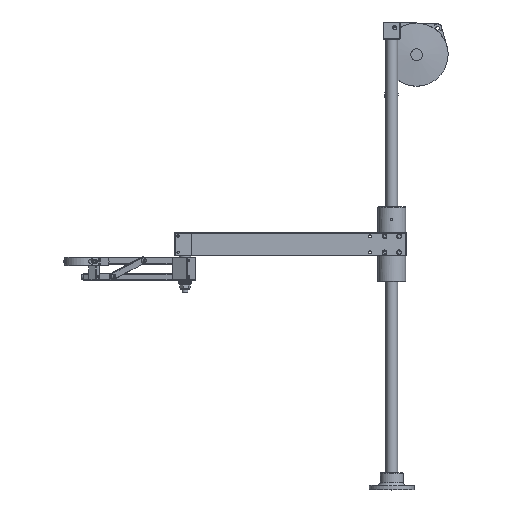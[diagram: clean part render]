
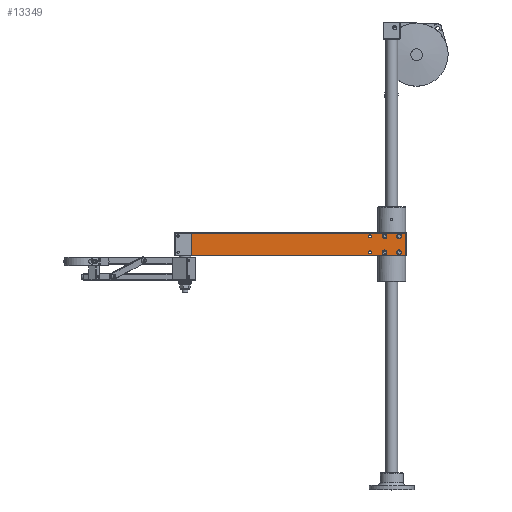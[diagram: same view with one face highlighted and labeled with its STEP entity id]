
A CAD part, top view. The second image highlights one B-rep face of the part: STEP entity #13349.
In plain terms, the highlighted planar face has unit normal (0, 0, 1) as drawn and (0, 0, -1) by its records, which use the part's own axes.
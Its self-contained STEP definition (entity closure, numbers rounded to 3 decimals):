
#1863=LINE('',#33014,#2753);
#1864=LINE('',#33017,#2754);
#1865=LINE('',#33019,#2755);
#1866=LINE('',#33021,#2756);
#2753=VECTOR('',#17847,1000.);
#2754=VECTOR('',#17848,1000.);
#2755=VECTOR('',#17849,1000.);
#2756=VECTOR('',#17850,1000.);
#5317=ORIENTED_EDGE('',*,*,#7624,.T.);
#5318=ORIENTED_EDGE('',*,*,#7625,.T.);
#5319=ORIENTED_EDGE('',*,*,#7626,.T.);
#5320=ORIENTED_EDGE('',*,*,#7627,.T.);
#5321=ORIENTED_EDGE('',*,*,#7619,.T.);
#5322=ORIENTED_EDGE('',*,*,#7620,.T.);
#5323=ORIENTED_EDGE('',*,*,#7621,.T.);
#5324=ORIENTED_EDGE('',*,*,#7622,.T.);
#5325=ORIENTED_EDGE('',*,*,#7623,.T.);
#5326=ORIENTED_EDGE('',*,*,#7628,.T.);
#5327=ORIENTED_EDGE('',*,*,#7629,.F.);
#5328=ORIENTED_EDGE('',*,*,#7630,.F.);
#7619=EDGE_CURVE('',#8922,#8922,#9671,.T.);
#7620=EDGE_CURVE('',#8923,#8923,#9672,.T.);
#7621=EDGE_CURVE('',#8924,#8924,#9673,.T.);
#7622=EDGE_CURVE('',#8925,#8925,#9674,.T.);
#7623=EDGE_CURVE('',#8926,#8926,#9675,.T.);
#7624=EDGE_CURVE('',#8927,#8928,#1863,.T.);
#7625=EDGE_CURVE('',#8928,#8929,#1864,.T.);
#7626=EDGE_CURVE('',#8929,#8930,#1865,.T.);
#7627=EDGE_CURVE('',#8930,#8927,#1866,.T.);
#7628=EDGE_CURVE('',#8931,#8931,#9676,.T.);
#7629=EDGE_CURVE('',#8932,#8932,#9677,.F.);
#7630=EDGE_CURVE('',#8933,#8933,#9678,.F.);
#8922=VERTEX_POINT('',#33000);
#8923=VERTEX_POINT('',#33003);
#8924=VERTEX_POINT('',#33006);
#8925=VERTEX_POINT('',#33009);
#8926=VERTEX_POINT('',#33012);
#8927=VERTEX_POINT('',#33015);
#8928=VERTEX_POINT('',#33016);
#8929=VERTEX_POINT('',#33018);
#8930=VERTEX_POINT('',#33020);
#8931=VERTEX_POINT('',#33023);
#8932=VERTEX_POINT('',#33025);
#8933=VERTEX_POINT('',#33027);
#9671=CIRCLE('',#14751,2.5);
#9672=CIRCLE('',#14753,2.5);
#9673=CIRCLE('',#14755,2.5);
#9674=CIRCLE('',#14757,2.5);
#9675=CIRCLE('',#14759,2.5);
#9676=CIRCLE('',#14761,2.5);
#9677=CIRCLE('',#14762,2.5);
#9678=CIRCLE('',#14763,2.5);
#10655=EDGE_LOOP('',(#5317,#5318,#5319,#5320));
#10656=EDGE_LOOP('',(#5321));
#10657=EDGE_LOOP('',(#5322));
#10658=EDGE_LOOP('',(#5323));
#10659=EDGE_LOOP('',(#5324));
#10660=EDGE_LOOP('',(#5325));
#10661=EDGE_LOOP('',(#5326));
#10662=EDGE_LOOP('',(#5327));
#10663=EDGE_LOOP('',(#5328));
#11861=FACE_BOUND('',#10655,.T.);
#11862=FACE_BOUND('',#10656,.T.);
#11863=FACE_BOUND('',#10657,.T.);
#11864=FACE_BOUND('',#10658,.T.);
#11865=FACE_BOUND('',#10659,.T.);
#11866=FACE_BOUND('',#10660,.T.);
#11867=FACE_BOUND('',#10661,.T.);
#11868=FACE_BOUND('',#10662,.T.);
#11869=FACE_BOUND('',#10663,.T.);
#12623=PLANE('',#14760);
#13349=ADVANCED_FACE('',(#11861,#11862,#11863,#11864,#11865,#11866,#11867,
#11868,#11869),#12623,.F.);
#14751=AXIS2_PLACEMENT_3D('',#32999,#17827,#17828);
#14753=AXIS2_PLACEMENT_3D('',#33002,#17831,#17832);
#14755=AXIS2_PLACEMENT_3D('',#33005,#17835,#17836);
#14757=AXIS2_PLACEMENT_3D('',#33008,#17839,#17840);
#14759=AXIS2_PLACEMENT_3D('',#33011,#17843,#17844);
#14760=AXIS2_PLACEMENT_3D('',#33013,#17845,#17846);
#14761=AXIS2_PLACEMENT_3D('',#33022,#17851,#17852);
#14762=AXIS2_PLACEMENT_3D('',#33024,#17853,#17854);
#14763=AXIS2_PLACEMENT_3D('',#33026,#17855,#17856);
#17827=DIRECTION('',(0.,0.,1.));
#17828=DIRECTION('',(1.,0.,0.));
#17831=DIRECTION('',(0.,0.,1.));
#17832=DIRECTION('',(1.,0.,0.));
#17835=DIRECTION('',(0.,0.,1.));
#17836=DIRECTION('',(1.,0.,0.));
#17839=DIRECTION('',(0.,0.,1.));
#17840=DIRECTION('',(1.,0.,0.));
#17843=DIRECTION('',(0.,0.,1.));
#17844=DIRECTION('',(1.,0.,0.));
#17845=DIRECTION('',(0.,0.,1.));
#17846=DIRECTION('',(1.,0.,0.));
#17847=DIRECTION('',(1.,0.,0.));
#17848=DIRECTION('',(0.,-1.,0.));
#17849=DIRECTION('',(-1.,0.,0.));
#17850=DIRECTION('',(0.,1.,0.));
#17851=DIRECTION('',(0.,0.,1.));
#17852=DIRECTION('',(1.,0.,0.));
#17853=DIRECTION('',(0.,0.,1.));
#17854=DIRECTION('',(1.,0.,0.));
#17855=DIRECTION('',(0.,0.,1.));
#17856=DIRECTION('',(1.,0.,0.));
#32999=CARTESIAN_POINT('',(282.927,17.587,0.));
#33000=CARTESIAN_POINT('',(285.427,17.587,0.));
#33002=CARTESIAN_POINT('',(282.927,45.587,0.));
#33003=CARTESIAN_POINT('',(285.427,45.587,0.));
#33005=CARTESIAN_POINT('',(307.927,17.587,0.));
#33006=CARTESIAN_POINT('',(310.427,17.587,0.));
#33008=CARTESIAN_POINT('',(307.927,45.587,0.));
#33009=CARTESIAN_POINT('',(310.427,45.587,0.));
#33011=CARTESIAN_POINT('',(332.927,17.587,0.));
#33012=CARTESIAN_POINT('',(335.427,17.587,0.));
#33013=CARTESIAN_POINT('',(-54.573,11.837,0.));
#33014=CARTESIAN_POINT('',(-54.573,51.087,0.));
#33015=CARTESIAN_POINT('',(-54.073,51.087,0.));
#33016=CARTESIAN_POINT('',(344.927,51.087,0.));
#33017=CARTESIAN_POINT('',(344.927,11.837,0.));
#33018=CARTESIAN_POINT('',(344.927,12.087,0.));
#33019=CARTESIAN_POINT('',(-54.573,12.087,0.));
#33020=CARTESIAN_POINT('',(-54.073,12.087,0.));
#33021=CARTESIAN_POINT('',(-54.073,11.837,0.));
#33022=CARTESIAN_POINT('',(332.927,45.587,0.));
#33023=CARTESIAN_POINT('',(335.427,45.587,0.));
#33024=CARTESIAN_POINT('',(-48.573,45.587,0.));
#33025=CARTESIAN_POINT('',(-46.073,45.587,0.));
#33026=CARTESIAN_POINT('',(-48.573,17.587,0.));
#33027=CARTESIAN_POINT('',(-46.073,17.587,0.));
